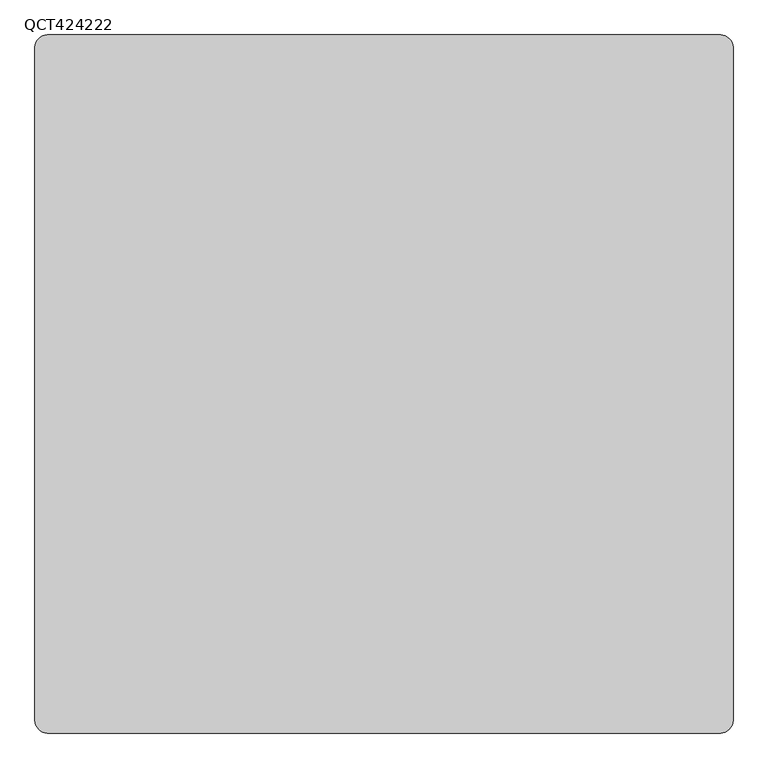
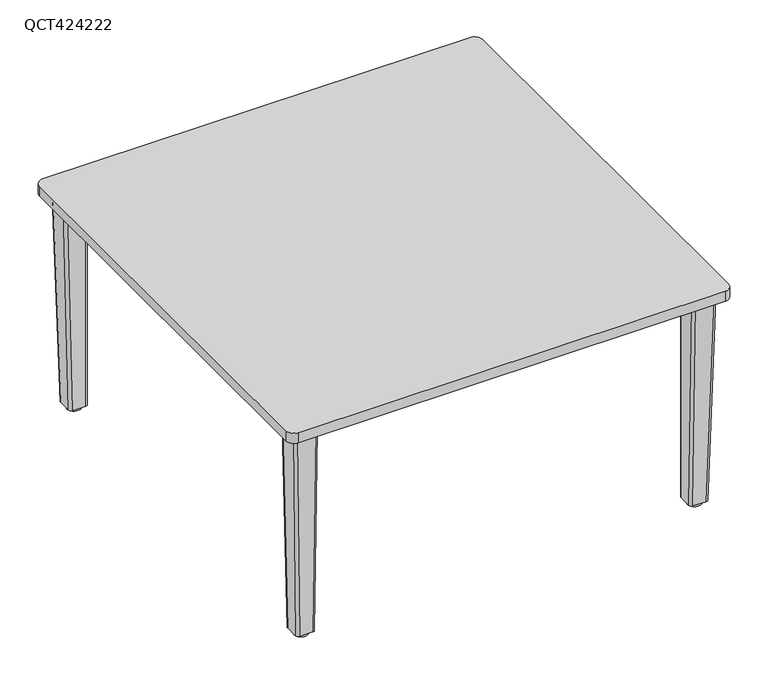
"""IFC4 building model written with IfcOpenShell, lengths in millimetres: furniture geometry, Leland-Quince-Table_Square : QCT424222."""

from ifc_helpers import new_model, si_unit, point, frame, frame_2d, origin, origin_with_axes, place, context, project, spatial, polyline, circle_curve, trimmed, segment, composite_curve, outline, extrude, source, transform, mapped, element, save
from ifc_brep_helpers import plane_surface, cylinder_surface, extruded_surface, advanced_brep


def qct424222_d210ae8e(model_context):
    return source(origin(), model_context, "Body", "SolidModel", [
        advanced_brep(
        [(502.4299122, -451.6482078, 528.6487443), (457.9799122, -451.6482078, 528.6487443), (451.6299122, -457.9982078, 528.6487443), (451.6299122, -502.4482078, 528.6487443), (457.9799122, -508.7982078, 528.6487443), (502.4299122, -508.7982078, 528.6487443), (508.7799122, -502.4482078, 528.6487443), (508.7799122, -457.9982078, 528.6487443), (490.1392552, -451.6482078, 9.5377), (496.4892552, -457.9982078, 9.5377), (496.4892552, -490.1651364, 9.5377), (490.1392552, -496.5151364, 9.5377), (457.9799122, -496.5151364, 9.5377), (451.6299122, -490.1651364, 9.5377), (451.6299122, -457.9982078, 9.5377), (457.9799122, -451.6482078, 9.5377)],
        [
            (0, 1),
            (1, 2, circle_curve(frame((457.9799122, -457.9982078, 528.6487443), z_axis=(0.0, 0.0, 1.0), x_axis=(-1.0, 0.0, 0.0)), 6.35)),
            (2, 3),
            (3, 4, circle_curve(frame((457.9799122, -502.4482078, 528.6487443), z_axis=(0.0, 0.0, 1.0), x_axis=(-1.0, 0.0, 0.0)), 6.35)),
            (4, 5),
            (5, 6, circle_curve(frame((502.4299122, -502.4482078, 528.6487443), z_axis=(0.0, 0.0, 1.0), x_axis=(-1.0, 0.0, 0.0)), 6.35)),
            (6, 7),
            (7, 0, circle_curve(frame((502.4299122, -457.9982078, 528.6487443), z_axis=(0.0, 0.0, 1.0), x_axis=(-1.0, 0.0, 0.0)), 6.35)),
            (8, 9, circle_curve(frame((490.1392552, -457.9982078, 9.5377), z_axis=(0.0, 0.0, -1.0), x_axis=(-1.0, 0.0, 0.0)), 6.35)),
            (9, 10),
            (10, 11, circle_curve(frame((490.1392552, -490.1651364, 9.5377), z_axis=(0.0, 0.0, -1.0), x_axis=(-1.0, 0.0, 0.0)), 6.35)),
            (11, 12),
            (12, 13, circle_curve(frame((457.9799122, -490.1651364, 9.5377), z_axis=(0.0, 0.0, -1.0), x_axis=(-1.0, 0.0, 0.0)), 6.35)),
            (13, 14),
            (14, 15, circle_curve(frame((457.9799122, -457.9982078, 9.5377), z_axis=(0.0, 0.0, -1.0), x_axis=(-1.0, 0.0, 0.0)), 6.35)),
            (15, 8),
            (8, 0),
            (7, 9),
            (6, 10),
            (5, 11),
            (4, 12),
            (3, 13),
            (2, 14),
            (1, 15),
        ],
        [
            plane_surface(frame((480.2049122, -480.2232078, 528.6487443), z_axis=(0.0, 0.0, 1.0), x_axis=(1.0, 0.0, 0.0))),
            plane_surface(frame((474.0595837, -474.0816721, 9.5377), z_axis=(0.0, 0.0, -1.0), x_axis=(1.0, 0.0, 0.0))),
            extruded_surface(trimmed(circle_curve(frame((490.1392552, -457.9982078, 9.5377), z_axis=(0.0, 0.0, 1.0), x_axis=(-1.0, 0.0, 0.0)), 6.35), [point((496.4892552, -457.9982078, 9.5377))], [point((490.1392552, -451.6482078, 9.5377))], True, "CARTESIAN"), (12.29065700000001, 0.0, 519.1110443), 519.2565228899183),
            plane_surface(frame((496.4892552, -474.0816721, 9.5377), z_axis=(0.999719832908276, 0.0, -0.023669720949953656), x_axis=(0.0, 1.0, 0.0))),
            extruded_surface(trimmed(circle_curve(frame((490.1392552, -490.1651364, 9.5377), z_axis=(0.0, 0.0, 1.0), x_axis=(-1.0, 0.0, 0.0)), 6.35), [point((490.1392552, -496.5151364, 9.5377))], [point((496.4892552, -490.1651364, 9.5377))], True, "CARTESIAN"), (12.29065700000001, -12.283071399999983, 519.1110443), 519.4017812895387),
            plane_surface(frame((474.0595837, -496.5151364, 9.5377), z_axis=(0.0, -0.9997201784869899, -0.023655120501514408), x_axis=(1.0, 0.0, 0.0))),
            extruded_surface(trimmed(circle_curve(frame((457.9799122, -490.1651364, 9.5377), z_axis=(0.0, 0.0, 1.0), x_axis=(-1.0, 0.0, 0.0)), 6.35), [point((451.6299122, -490.1651364, 9.5377))], [point((457.9799122, -496.5151364, 9.5377))], True, "CARTESIAN"), (0.0, -12.283071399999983, 519.1110443), 519.2563433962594),
            plane_surface(frame((451.6299122, -474.0816721, 9.5377), z_axis=(-1.0, 0.0, 0.0), x_axis=(0.0, -1.0, 0.0))),
            cylinder_surface(frame((457.9799122, -457.9982078, 9.5377), z_axis=(0.0, 0.0, 1.0), x_axis=(-1.0, 0.0, 0.0)), 6.35),
            plane_surface(frame((474.0595837, -451.6482078, 9.5377), z_axis=(0.0, 1.0, 0.0), x_axis=(-1.0, 0.0, 0.0))),
        ],
        [
            (0, [[1, 2, 3, 4, 5, 6, 7, 8]]),
            (1, [[9, 10, 11, 12, 13, 14, 15, 16]]),
            (2, [[-9, 17, -8, 18]]),
            (3, [[-10, -18, -7, 19]]),
            (4, [[-11, -19, -6, 20]]),
            (5, [[-12, -20, -5, 21]]),
            (6, [[-13, -21, -4, 22]]),
            (7, [[-14, -22, -3, 23]]),
            (8, [[-15, -23, -2, 24]]),
            (9, [[-16, -24, -1, -17]]),
        ],
    ),
        advanced_brep(
        [(-502.4299122, -451.6482078, 528.6487443), (-508.7799122, -457.9982078, 528.6487443), (-508.7799122, -502.4482078, 528.6487443), (-502.4299122, -508.7982078, 528.6487443), (-457.9799122, -508.7982078, 528.6487443), (-451.6299122, -502.4482078, 528.6487443), (-451.6299122, -457.9982078, 528.6487443), (-457.9799122, -451.6482078, 528.6487443), (-490.1392552, -451.6482078, 9.5377), (-457.9799122, -451.6482078, 9.5377), (-451.6299122, -457.9982078, 9.5377), (-451.6299122, -490.1651364, 9.5377), (-457.9799122, -496.5151364, 9.5377), (-490.1392552, -496.5151364, 9.5377), (-496.4892552, -490.1651364, 9.5377), (-496.4892552, -457.9982078, 9.5377)],
        [
            (0, 1, circle_curve(frame((-502.4299122, -457.9982078, 528.6487443), z_axis=(0.0, 0.0, 1.0), x_axis=(1.0, 0.0, 0.0)), 6.35)),
            (1, 2),
            (2, 3, circle_curve(frame((-502.4299122, -502.4482078, 528.6487443), z_axis=(0.0, 0.0, 1.0), x_axis=(1.0, 0.0, 0.0)), 6.35)),
            (3, 4),
            (4, 5, circle_curve(frame((-457.9799122, -502.4482078, 528.6487443), z_axis=(0.0, 0.0, 1.0), x_axis=(1.0, 0.0, 0.0)), 6.35)),
            (5, 6),
            (6, 7, circle_curve(frame((-457.9799122, -457.9982078, 528.6487443), z_axis=(0.0, 0.0, 1.0), x_axis=(0.0, 1.0, 0.0)), 6.35)),
            (7, 0),
            (8, 9),
            (9, 10, circle_curve(frame((-457.9799122, -457.9982078, 9.5377), z_axis=(0.0, 0.0, -1.0), x_axis=(0.0, 1.0, 0.0)), 6.35)),
            (10, 11),
            (11, 12, circle_curve(frame((-457.9799122, -490.1651364, 9.5377), z_axis=(0.0, 0.0, -1.0), x_axis=(1.0, 0.0, 0.0)), 6.35)),
            (12, 13),
            (13, 14, circle_curve(frame((-490.1392552, -490.1651364, 9.5377), z_axis=(0.0, 0.0, -1.0), x_axis=(1.0, 0.0, 0.0)), 6.35)),
            (14, 15),
            (15, 8, circle_curve(frame((-490.1392552, -457.9982078, 9.5377), z_axis=(0.0, 0.0, -1.0), x_axis=(1.0, 0.0, 0.0)), 6.35)),
            (15, 1),
            (0, 8),
            (14, 2),
            (13, 3),
            (12, 4),
            (11, 5),
            (10, 6),
            (9, 7),
        ],
        [
            plane_surface(frame((-480.2049122, -480.2232078, 528.6487443), z_axis=(0.0, 0.0, 1.0), x_axis=(1.0, 0.0, 0.0))),
            plane_surface(frame((-474.0595837, -474.0816721, 9.5377), z_axis=(0.0, 0.0, -1.0), x_axis=(1.0, 0.0, 0.0))),
            extruded_surface(trimmed(circle_curve(frame((-490.1392552, -457.9982078, 9.5377), z_axis=(0.0, 0.0, 1.0), x_axis=(1.0, 0.0, 0.0)), 6.35), [point((-490.1392552, -451.6482078, 9.5377))], [point((-496.4892552, -457.9982078, 9.5377))], True, "CARTESIAN"), (-12.29065700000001, 0.0, 519.1110443), 519.2565228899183),
            plane_surface(frame((-496.4892552, -474.0816721, 9.5377), z_axis=(-0.999719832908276, 0.0, -0.02366972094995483), x_axis=(0.0, -1.0, 0.0))),
            extruded_surface(trimmed(circle_curve(frame((-490.1392552, -490.1651364, 9.5377), z_axis=(0.0, 0.0, 1.0), x_axis=(1.0, 0.0, 0.0)), 6.35), [point((-496.4892552, -490.1651364, 9.5377))], [point((-490.1392552, -496.5151364, 9.5377))], True, "CARTESIAN"), (-12.29065700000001, -12.283071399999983, 519.1110443), 519.4017812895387),
            plane_surface(frame((-474.0595837, -496.5151364, 9.5377), z_axis=(0.0, -0.9997201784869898, -0.023655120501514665), x_axis=(1.0, 0.0, 0.0))),
            extruded_surface(trimmed(circle_curve(frame((-457.9799122, -490.1651364, 9.5377), z_axis=(0.0, 0.0, 1.0), x_axis=(1.0, 0.0, 0.0)), 6.35), [point((-457.9799122, -496.5151364, 9.5377))], [point((-451.6299122, -490.1651364, 9.5377))], True, "CARTESIAN"), (0.0, -12.283071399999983, 519.1110443), 519.2563433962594),
            plane_surface(frame((-451.6299122, -474.0816721, 9.5377), z_axis=(1.0, 0.0, 0.0), x_axis=(0.0, 1.0, 0.0))),
            cylinder_surface(frame((-457.9799122, -457.9982078, 9.5377), z_axis=(0.0, 0.0, 1.0), x_axis=(0.0, 1.0, 0.0)), 6.35),
            plane_surface(frame((-474.0595837, -451.6482078, 9.5377), z_axis=(0.0, 1.0, 0.0), x_axis=(-1.0, 0.0, 0.0))),
        ],
        [
            (0, [[1, 2, 3, 4, 5, 6, 7, 8]]),
            (1, [[9, 10, 11, 12, 13, 14, 15, 16]]),
            (2, [[-16, 17, -1, 18]]),
            (3, [[-15, 19, -2, -17]]),
            (4, [[-14, 20, -3, -19]]),
            (5, [[-13, 21, -4, -20]]),
            (6, [[-12, 22, -5, -21]]),
            (7, [[-11, 23, -6, -22]]),
            (8, [[-10, 24, -7, -23]]),
            (9, [[-9, -18, -8, -24]]),
        ],
    ),
        advanced_brep(
        [(502.4299122, 451.6482078, 528.6487443), (508.7799122, 457.9982078, 528.6487443), (508.7799122, 502.4482078, 528.6487443), (502.4299122, 508.7982078, 528.6487443), (457.9799122, 508.7982078, 528.6487443), (451.6299122, 502.4482078, 528.6487443), (451.6299122, 457.9982078, 528.6487443), (457.9799122, 451.6482078, 528.6487443), (490.1392552, 451.6482078, 9.5377), (457.9799122, 451.6482078, 9.5377), (451.6299122, 457.9982078, 9.5377), (451.6299122, 490.1651364, 9.5377), (457.9799122, 496.5151364, 9.5377), (490.1392552, 496.5151364, 9.5377), (496.4892552, 490.1651364, 9.5377), (496.4892552, 457.9982078, 9.5377)],
        [
            (0, 1, circle_curve(frame((502.4299122, 457.9982078, 528.6487443), z_axis=(0.0, 0.0, 1.0), x_axis=(-1.0, 0.0, 0.0)), 6.35)),
            (1, 2),
            (2, 3, circle_curve(frame((502.4299122, 502.4482078, 528.6487443), z_axis=(0.0, 0.0, 1.0), x_axis=(-1.0, 0.0, 0.0)), 6.35)),
            (3, 4),
            (4, 5, circle_curve(frame((457.9799122, 502.4482078, 528.6487443), z_axis=(0.0, 0.0, 1.0), x_axis=(-1.0, 0.0, 0.0)), 6.35)),
            (5, 6),
            (6, 7, circle_curve(frame((457.9799122, 457.9982078, 528.6487443), z_axis=(0.0, 0.0, 1.0), x_axis=(0.0, -1.0, 0.0)), 6.35)),
            (7, 0),
            (8, 9),
            (9, 10, circle_curve(frame((457.9799122, 457.9982078, 9.5377), z_axis=(0.0, 0.0, -1.0), x_axis=(0.0, -1.0, 0.0)), 6.35)),
            (10, 11),
            (11, 12, circle_curve(frame((457.9799122, 490.1651364, 9.5377), z_axis=(0.0, 0.0, -1.0), x_axis=(-1.0, 0.0, 0.0)), 6.35)),
            (12, 13),
            (13, 14, circle_curve(frame((490.1392552, 490.1651364, 9.5377), z_axis=(0.0, 0.0, -1.0), x_axis=(-1.0, 0.0, 0.0)), 6.35)),
            (14, 15),
            (15, 8, circle_curve(frame((490.1392552, 457.9982078, 9.5377), z_axis=(0.0, 0.0, -1.0), x_axis=(-1.0, 0.0, 0.0)), 6.35)),
            (15, 1),
            (0, 8),
            (14, 2),
            (13, 3),
            (12, 4),
            (11, 5),
            (10, 6),
            (9, 7),
        ],
        [
            plane_surface(frame((480.2049122, 480.2232078, 528.6487443), z_axis=(0.0, 0.0, 1.0), x_axis=(-1.0, 0.0, 0.0))),
            plane_surface(frame((474.0595837, 474.0816721, 9.5377), z_axis=(0.0, 0.0, -1.0), x_axis=(-1.0, 0.0, 0.0))),
            extruded_surface(trimmed(circle_curve(frame((490.1392552, 457.9982078, 9.5377), z_axis=(0.0, 0.0, 1.0), x_axis=(-1.0, 0.0, 0.0)), 6.35), [point((490.1392552, 451.6482078, 9.5377))], [point((496.4892552, 457.9982078, 9.5377))], True, "CARTESIAN"), (12.29065700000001, 0.0, 519.1110443), 519.2565228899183),
            plane_surface(frame((496.4892552, 474.0816721, 9.5377), z_axis=(0.999719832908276, 0.0, -0.023669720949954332), x_axis=(0.0, 1.0, 0.0))),
            extruded_surface(trimmed(circle_curve(frame((490.1392552, 490.1651364, 9.5377), z_axis=(0.0, 0.0, 1.0), x_axis=(-1.0, 0.0, 0.0)), 6.35), [point((496.4892552, 490.1651364, 9.5377))], [point((490.1392552, 496.5151364, 9.5377))], True, "CARTESIAN"), (12.29065700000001, 12.283071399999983, 519.1110443), 519.4017812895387),
            plane_surface(frame((474.0595837, 496.5151364, 9.5377), z_axis=(0.0, 0.9997201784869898, -0.023655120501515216), x_axis=(-1.0, 0.0, 0.0))),
            extruded_surface(trimmed(circle_curve(frame((457.9799122, 490.1651364, 9.5377), z_axis=(0.0, 0.0, 1.0), x_axis=(-1.0, 0.0, 0.0)), 6.35), [point((457.9799122, 496.5151364, 9.5377))], [point((451.6299122, 490.1651364, 9.5377))], True, "CARTESIAN"), (0.0, 12.283071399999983, 519.1110443), 519.2563433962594),
            plane_surface(frame((451.6299122, 474.0816721, 9.5377), z_axis=(-1.0, 0.0, 0.0), x_axis=(0.0, -1.0, 0.0))),
            cylinder_surface(frame((457.9799122, 457.9982078, 9.5377), z_axis=(0.0, 0.0, 1.0), x_axis=(0.0, -1.0, 0.0)), 6.35),
            plane_surface(frame((474.0595837, 451.6482078, 9.5377), z_axis=(0.0, -1.0, 0.0), x_axis=(1.0, 0.0, 0.0))),
        ],
        [
            (0, [[1, 2, 3, 4, 5, 6, 7, 8]]),
            (1, [[9, 10, 11, 12, 13, 14, 15, 16]]),
            (2, [[-16, 17, -1, 18]]),
            (3, [[-15, 19, -2, -17]]),
            (4, [[-14, 20, -3, -19]]),
            (5, [[-13, 21, -4, -20]]),
            (6, [[-12, 22, -5, -21]]),
            (7, [[-11, 23, -6, -22]]),
            (8, [[-10, 24, -7, -23]]),
            (9, [[-9, -18, -8, -24]]),
        ],
    ),
        extrude(outline(composite_curve([segment(trimmed(circle_curve(frame_2d((-474.0595837, 474.0816721)), 16.66875), [point((-490.7283337, 474.0816721))], [point((-457.3908337, 474.0816721))], False, "CARTESIAN"), True, "CONTINUOUS"), segment(trimmed(circle_curve(frame_2d((-474.0595837, 474.0816721)), 16.66875), [point((-457.3908337, 474.0816721))], [point((-490.7283337, 474.0816721))], False, "CARTESIAN"), True, "CONTINUOUS")], self_intersect=False)), origin_with_axes(), (0.0, 0.0, 1.0), 9.5377),
        extrude(outline(composite_curve([segment(trimmed(circle_curve(frame_2d((474.0595837, 474.0816721)), 16.66875), [point((457.3908337, 474.0816721))], [point((490.7283337, 474.0816721))], False, "CARTESIAN"), True, "CONTINUOUS"), segment(trimmed(circle_curve(frame_2d((474.0595837, 474.0816721)), 16.66875), [point((490.7283337, 474.0816721))], [point((457.3908337, 474.0816721))], False, "CARTESIAN"), True, "CONTINUOUS")], self_intersect=False)), origin_with_axes(), (0.0, 0.0, 1.0), 9.5377),
        extrude(outline(composite_curve([segment(trimmed(circle_curve(frame_2d((-474.0595837, -474.0816721)), 16.66875), [point((-490.7283337, -474.0816721))], [point((-457.3908337, -474.0816721))], False, "CARTESIAN"), True, "CONTINUOUS"), segment(trimmed(circle_curve(frame_2d((-474.0595837, -474.0816721)), 16.66875), [point((-457.3908337, -474.0816721))], [point((-490.7283337, -474.0816721))], False, "CARTESIAN"), True, "CONTINUOUS")], self_intersect=False)), origin_with_axes(), (0.0, 0.0, 1.0), 9.5377),
        extrude(outline(composite_curve([segment(trimmed(circle_curve(frame_2d((474.0595837, -474.0816721)), 16.66875), [point((457.3908337, -474.0816721))], [point((490.7283337, -474.0816721))], False, "CARTESIAN"), True, "CONTINUOUS"), segment(trimmed(circle_curve(frame_2d((474.0595837, -474.0816721)), 16.66875), [point((490.7283337, -474.0816721))], [point((457.3908337, -474.0816721))], False, "CARTESIAN"), True, "CONTINUOUS")], self_intersect=False)), origin_with_axes(), (0.0, 0.0, 1.0), 9.5377),
        extrude(outline(polyline([(-404.01875, 505.61875), (-404.01875, 404.01875), (-505.61875, 404.01875), (-505.61875, 505.61875), (-404.01875, 505.61875)])), frame((0.0, 0.0, 528.6487443), z_axis=(0.0, 0.0, 1.0), x_axis=(1.0, 0.0, 0.0)), (0.0, 0.0, 1.0), 4.7625),
        extrude(outline(polyline([(404.01875, 505.61875), (505.61875, 505.61875), (505.61875, 404.01875), (404.01875, 404.01875), (404.01875, 505.61875)])), frame((0.0, 0.0, 528.6487443), z_axis=(0.0, 0.0, 1.0), x_axis=(1.0, 0.0, 0.0)), (0.0, 0.0, 1.0), 4.7625),
        extrude(outline(polyline([(-404.01875, -505.61875), (-505.61875, -505.61875), (-505.61875, -404.01875), (-404.01875, -404.01875), (-404.01875, -505.61875)])), frame((0.0, 0.0, 528.6487443), z_axis=(0.0, 0.0, 1.0), x_axis=(1.0, 0.0, 0.0)), (0.0, 0.0, 1.0), 4.7625),
        extrude(outline(polyline([(404.01875, -505.61875), (404.01875, -404.01875), (505.61875, -404.01875), (505.61875, -505.61875), (404.01875, -505.61875)])), frame((0.0, 0.0, 528.6487443), z_axis=(0.0, 0.0, 1.0), x_axis=(1.0, 0.0, 0.0)), (0.0, 0.0, 1.0), 4.7625),
        advanced_brep(
        [(-502.4299122, 451.6482078, 528.6487443), (-457.9799122, 451.6482078, 528.6487443), (-451.6299122, 457.9982078, 528.6487443), (-451.6299122, 502.4482078, 528.6487443), (-457.9799122, 508.7982078, 528.6487443), (-502.4299122, 508.7982078, 528.6487443), (-508.7799122, 502.4482078, 528.6487443), (-508.7799122, 457.9982078, 528.6487443), (-490.1392552, 451.6482078, 9.5377), (-496.4892552, 457.9982078, 9.5377), (-496.4892552, 490.1651364, 9.5377), (-490.1392552, 496.5151364, 9.5377), (-457.9799122, 496.5151364, 9.5377), (-451.6299122, 490.1651364, 9.5377), (-451.6299122, 457.9982078, 9.5377), (-457.9799122, 451.6482078, 9.5377)],
        [
            (0, 1),
            (1, 2, circle_curve(frame((-457.9799122, 457.9982078, 528.6487443), z_axis=(0.0, 0.0, 1.0), x_axis=(1.0, 0.0, 0.0)), 6.35)),
            (2, 3),
            (3, 4, circle_curve(frame((-457.9799122, 502.4482078, 528.6487443), z_axis=(0.0, 0.0, 1.0), x_axis=(1.0, 0.0, 0.0)), 6.35)),
            (4, 5),
            (5, 6, circle_curve(frame((-502.4299122, 502.4482078, 528.6487443), z_axis=(0.0, 0.0, 1.0), x_axis=(1.0, 0.0, 0.0)), 6.35)),
            (6, 7),
            (7, 0, circle_curve(frame((-502.4299122, 457.9982078, 528.6487443), z_axis=(0.0, 0.0, 1.0), x_axis=(1.0, 0.0, 0.0)), 6.35)),
            (8, 9, circle_curve(frame((-490.1392552, 457.9982078, 9.5377), z_axis=(0.0, 0.0, -1.0), x_axis=(1.0, 0.0, 0.0)), 6.35)),
            (9, 10),
            (10, 11, circle_curve(frame((-490.1392552, 490.1651364, 9.5377), z_axis=(0.0, 0.0, -1.0), x_axis=(1.0, 0.0, 0.0)), 6.35)),
            (11, 12),
            (12, 13, circle_curve(frame((-457.9799122, 490.1651364, 9.5377), z_axis=(0.0, 0.0, -1.0), x_axis=(1.0, 0.0, 0.0)), 6.35)),
            (13, 14),
            (14, 15, circle_curve(frame((-457.9799122, 457.9982078, 9.5377), z_axis=(0.0, 0.0, -1.0), x_axis=(1.0, 0.0, 0.0)), 6.35)),
            (15, 8),
            (8, 0),
            (7, 9),
            (6, 10),
            (5, 11),
            (4, 12),
            (3, 13),
            (2, 14),
            (1, 15),
        ],
        [
            plane_surface(frame((-480.2049122, 480.2232078, 528.6487443), z_axis=(0.0, 0.0, 1.0), x_axis=(-1.0, 0.0, 0.0))),
            plane_surface(frame((-474.0595837, 474.0816721, 9.5377), z_axis=(0.0, 0.0, -1.0), x_axis=(-1.0, 0.0, 0.0))),
            extruded_surface(trimmed(circle_curve(frame((-490.1392552, 457.9982078, 9.5377), z_axis=(0.0, 0.0, 1.0), x_axis=(1.0, 0.0, 0.0)), 6.35), [point((-496.4892552, 457.9982078, 9.5377))], [point((-490.1392552, 451.6482078, 9.5377))], True, "CARTESIAN"), (-12.29065700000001, 0.0, 519.1110443), 519.2565228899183),
            plane_surface(frame((-496.4892552, 474.0816721, 9.5377), z_axis=(-0.999719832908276, 0.0, -0.023669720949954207), x_axis=(0.0, -1.0, 0.0))),
            extruded_surface(trimmed(circle_curve(frame((-490.1392552, 490.1651364, 9.5377), z_axis=(0.0, 0.0, 1.0), x_axis=(1.0, 0.0, 0.0)), 6.35), [point((-490.1392552, 496.5151364, 9.5377))], [point((-496.4892552, 490.1651364, 9.5377))], True, "CARTESIAN"), (-12.29065700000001, 12.283071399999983, 519.1110443), 519.4017812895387),
            plane_surface(frame((-474.0595837, 496.5151364, 9.5377), z_axis=(0.0, 0.9997201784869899, -0.023655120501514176), x_axis=(-1.0, 0.0, 0.0))),
            extruded_surface(trimmed(circle_curve(frame((-457.9799122, 490.1651364, 9.5377), z_axis=(0.0, 0.0, 1.0), x_axis=(1.0, 0.0, 0.0)), 6.35), [point((-451.6299122, 490.1651364, 9.5377))], [point((-457.9799122, 496.5151364, 9.5377))], True, "CARTESIAN"), (0.0, 12.283071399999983, 519.1110443), 519.2563433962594),
            plane_surface(frame((-451.6299122, 474.0816721, 9.5377), z_axis=(1.0, 0.0, 0.0), x_axis=(0.0, 1.0, 0.0))),
            cylinder_surface(frame((-457.9799122, 457.9982078, 9.5377), z_axis=(0.0, 0.0, 1.0), x_axis=(1.0, 0.0, 0.0)), 6.35),
            plane_surface(frame((-474.0595837, 451.6482078, 9.5377), z_axis=(0.0, -1.0, 0.0), x_axis=(1.0, 0.0, 0.0))),
        ],
        [
            (0, [[1, 2, 3, 4, 5, 6, 7, 8]]),
            (1, [[9, 10, 11, 12, 13, 14, 15, 16]]),
            (2, [[-9, 17, -8, 18]]),
            (3, [[-10, -18, -7, 19]]),
            (4, [[-11, -19, -6, 20]]),
            (5, [[-12, -20, -5, 21]]),
            (6, [[-13, -21, -4, 22]]),
            (7, [[-14, -22, -3, 23]]),
            (8, [[-15, -23, -2, 24]]),
            (9, [[-16, -24, -1, -17]]),
        ],
    ),
        extrude(outline(composite_curve([segment(trimmed(circle_curve(frame_2d((514.35, 514.35)), 19.05), [point((514.35, 533.4))], [point((533.4, 514.35))], False, "CARTESIAN"), True, "CONTINUOUS"), segment(polyline([(533.4, 514.35), (533.4, -514.35)]), True, "CONTINUOUS"), segment(trimmed(circle_curve(frame_2d((514.35, -514.35)), 19.05), [point((533.4, -514.35))], [point((514.35, -533.4))], False, "CARTESIAN"), True, "CONTINUOUS"), segment(polyline([(514.35, -533.4), (-514.35, -533.4)]), True, "CONTINUOUS"), segment(trimmed(circle_curve(frame_2d((-514.35, -514.35)), 19.05), [point((-514.35, -533.4))], [point((-533.4, -514.35))], False, "CARTESIAN"), True, "CONTINUOUS"), segment(polyline([(-533.4, -514.35), (-533.4, 514.35)]), True, "CONTINUOUS"), segment(trimmed(circle_curve(frame_2d((-514.35, 514.35)), 19.05), [point((-533.4, 514.35))], [point((-514.35, 533.4))], False, "CARTESIAN"), True, "CONTINUOUS"), segment(polyline([(-514.35, 533.4), (514.35, 533.4)]), True, "CONTINUOUS")], self_intersect=False)), frame((0.0, 0.0, 533.4112443), z_axis=(0.0, 0.0, 1.0), x_axis=(1.0, 0.0, 0.0)), (0.0, 0.0, 1.0), 25.3887557),
    ])


if __name__ == "__main__":
    model = new_model("IFC4")
    model_context = context("Model", 3, world=origin())
    ifc_project = project(units=[si_unit("LENGTHUNIT", "METRE", prefix="MILLI")], contexts=[model_context])
    site = spatial("IfcSite", under=ifc_project)
    building = spatial("IfcBuilding", under=site)
    placement = place(None, origin())
    qct424222_shape = qct424222_d210ae8e(model_context)
    element("IfcFurniture", 1, ObjectType="Leland-Quince-Table_Square : QCT424222", at=placement, inside=building, context=model_context, shape_type="MappedRepresentation", body=[
        mapped(qct424222_shape, transform((0.0, 0.0, 0.0), x_axis=(1.0, 0.0, 0.0), y_axis=(0.0, 1.0, 0.0), z_axis=(0.0, 0.0, 1.0))),
    ])
    save(model, "model.ifc")
